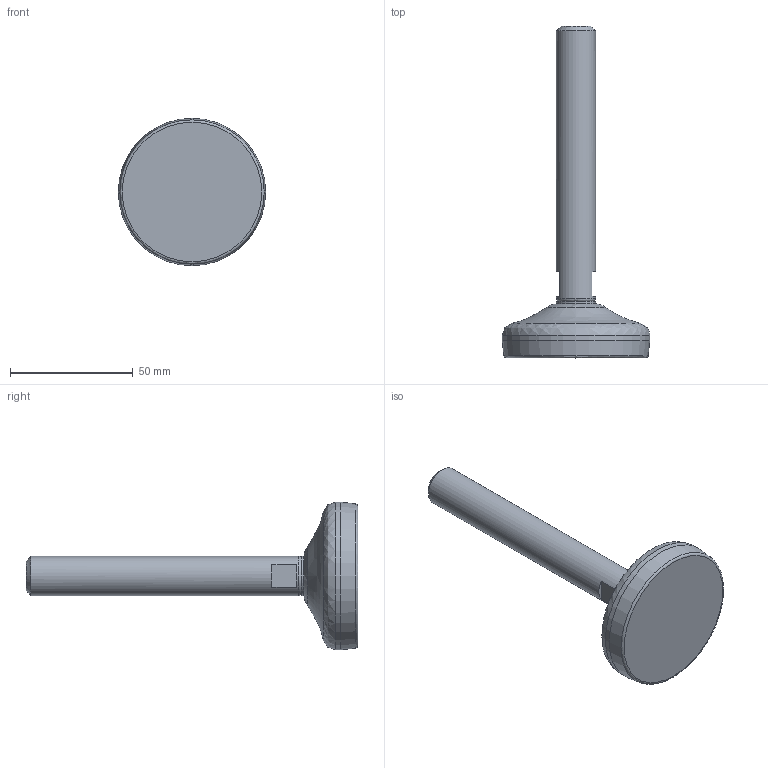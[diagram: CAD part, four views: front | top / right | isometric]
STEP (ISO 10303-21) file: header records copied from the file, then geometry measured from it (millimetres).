
FILE_DESCRIPTION(('STEP AP203'),'2;1');
FILE_NAME('24816.stp','2016-01-29T13:34:32',(''),(''),'2008.1.107','THINKDESIGN','');
FILE_SCHEMA(('CONFIG_CONTROL_DESIGN'));
Length unit declared in the file: millimetre
Bounding box: 60 x 135 x 60 mm (x, y, z)
Volume: 68024.7 mm3; surface area: 19971.9 mm2
Topology: 4 solids, 4 shells, 25 faces, 53 edges, 38 vertices
Faces by surface type: plane 15, bspline 7, cylinder 3
Full cylindrical faces by diameter (mm): 16 x2, 60 x1
Entity records: 1265 total; most frequent: CARTESIAN_POINT 612, DIRECTION 126, ORIENTED_EDGE 106, AXIS2_PLACEMENT_3D 55, EDGE_CURVE 53, VERTEX_POINT 38, CIRCLE 37, EDGE_LOOP 27
